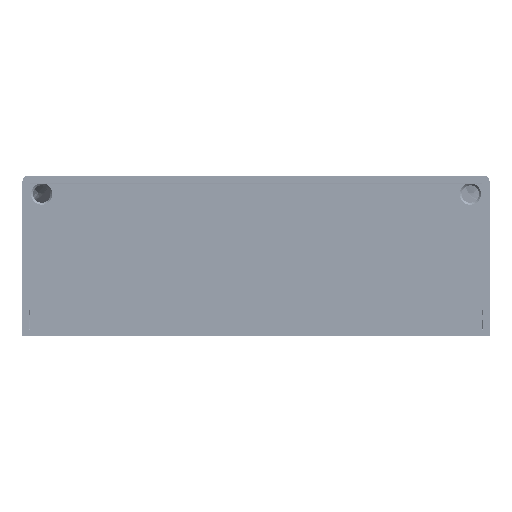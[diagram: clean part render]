
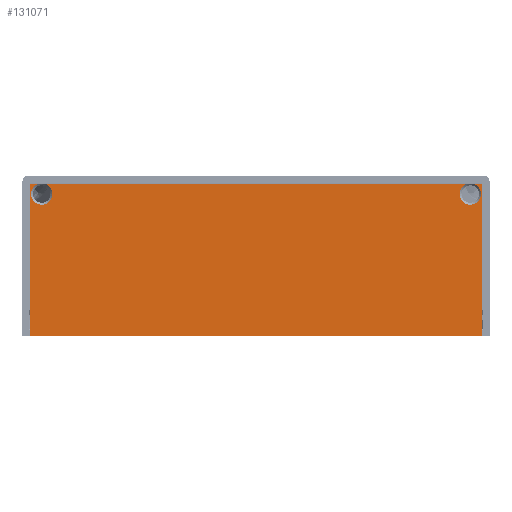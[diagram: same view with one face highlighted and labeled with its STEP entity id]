
A CAD part, left-side view. The second image highlights one B-rep face of the part: STEP entity #131071.
In plain terms, the highlighted planar face has unit normal (-1, 0, 0).
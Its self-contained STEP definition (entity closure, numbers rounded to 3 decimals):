
#925 = CARTESIAN_POINT ( 'NONE',  ( -40.15, -56.85, -40. ) ) ;
#3956 = CARTESIAN_POINT ( 'NONE',  ( -40.15, -56.85, -1.6 ) ) ;
#6101 = CARTESIAN_POINT ( 'NONE',  ( -40.15, -54., -4.17 ) ) ;
#8158 = VERTEX_POINT ( 'NONE', #72545 ) ;
#8771 = ORIENTED_EDGE ( 'NONE', *, *, #34877, .T. ) ;
#13127 = AXIS2_PLACEMENT_3D ( 'NONE', #56211, #232865, #81625 ) ;
#31464 = DIRECTION ( 'NONE',  ( 0., 1., 0. ) ) ;
#34751 = CARTESIAN_POINT ( 'NONE',  ( -40.15, 56.95, -34.5 ) ) ;
#34877 = EDGE_CURVE ( 'NONE', #255227, #118844, #248320, .T. ) ;
#39450 = DIRECTION ( 'NONE',  ( 1., 0., 0. ) ) ;
#39971 = VECTOR ( 'NONE', #303301, 1000. ) ;
#43167 = VERTEX_POINT ( 'NONE', #177712 ) ;
#46460 = CARTESIAN_POINT ( 'NONE',  ( -40.15, 56.7, -4.17 ) ) ;
#46837 = ORIENTED_EDGE ( 'NONE', *, *, #210248, .T. ) ;
#48514 = ORIENTED_EDGE ( 'NONE', *, *, #143624, .T. ) ;
#48771 = VECTOR ( 'NONE', #176226, 1000. ) ;
#56211 = CARTESIAN_POINT ( 'NONE',  ( -40.15, 54., -4.17 ) ) ;
#56597 = VERTEX_POINT ( 'NONE', #153656 ) ;
#58373 = EDGE_CURVE ( 'NONE', #56597, #209656, #107174, .T. ) ;
#72545 = CARTESIAN_POINT ( 'NONE',  ( -40.15, -56.95, -1.6 ) ) ;
#81625 = DIRECTION ( 'NONE',  ( 0., 1., 0. ) ) ;
#82367 = ORIENTED_EDGE ( 'NONE', *, *, #303267, .T. ) ;
#88823 = EDGE_CURVE ( 'NONE', #118844, #123932, #279010, .T. ) ;
#96712 = AXIS2_PLACEMENT_3D ( 'NONE', #111357, #287919, #136685 ) ;
#103754 = DIRECTION ( 'NONE',  ( 1., 0., 0. ) ) ;
#104331 = CARTESIAN_POINT ( 'NONE',  ( -40.15, 56.95, -1.6 ) ) ;
#106535 = CARTESIAN_POINT ( 'NONE',  ( -40.15, 51.3, -4.17 ) ) ;
#106750 = LINE ( 'NONE', #129312, #181763 ) ;
#107113 = EDGE_CURVE ( 'NONE', #293927, #186513, #274939, .T. ) ;
#107174 = LINE ( 'NONE', #925, #39971 ) ;
#107938 = CARTESIAN_POINT ( 'NONE',  ( -40.15, -56.95, -40. ) ) ;
#111357 = CARTESIAN_POINT ( 'NONE',  ( -40.15, 54., -4.17 ) ) ;
#118844 = VERTEX_POINT ( 'NONE', #129765 ) ;
#123932 = VERTEX_POINT ( 'NONE', #192146 ) ;
#125212 = VECTOR ( 'NONE', #191727, 1000. ) ;
#129312 = CARTESIAN_POINT ( 'NONE',  ( -40.15, -56.85, -1.6 ) ) ;
#129765 = CARTESIAN_POINT ( 'NONE',  ( -40.15, -51.3, -4.17 ) ) ;
#131071 = ADVANCED_FACE ( 'NONE', ( #198881 ), #238047, .F. ) ;
#133113 = DIRECTION ( 'NONE',  ( 1., 0., 0. ) ) ;
#134094 = EDGE_CURVE ( 'NONE', #8158, #43167, #106750, .T. ) ;
#136685 = DIRECTION ( 'NONE',  ( 0., 1., 0. ) ) ;
#137445 = CARTESIAN_POINT ( 'NONE',  ( -40.15, -56.85, -34.5 ) ) ;
#140330 = ORIENTED_EDGE ( 'NONE', *, *, #134094, .T. ) ;
#143612 = AXIS2_PLACEMENT_3D ( 'NONE', #6101, #182600, #31464 ) ;
#143624 = EDGE_CURVE ( 'NONE', #221180, #205363, #175067, .T. ) ;
#144078 = VECTOR ( 'NONE', #155097, 1000. ) ;
#145595 = CIRCLE ( 'NONE', #13127, 2.7 ) ;
#146675 = EDGE_LOOP ( 'NONE', ( #140330, #240339, #8771, #300226, #173146, #46837, #211710, #228432, #48514, #82367, #213789, #178722 ) ) ;
#153656 = CARTESIAN_POINT ( 'NONE',  ( -40.15, 56.95, -40. ) ) ;
#155097 = DIRECTION ( 'NONE',  ( 0., 1., 0. ) ) ;
#162852 = DIRECTION ( 'NONE',  ( 0., 0., -1. ) ) ;
#171428 = CARTESIAN_POINT ( 'NONE',  ( -40.15, 53.172, -1.6 ) ) ;
#173146 = ORIENTED_EDGE ( 'NONE', *, *, #248430, .T. ) ;
#175067 = LINE ( 'NONE', #327426, #48771 ) ;
#176226 = DIRECTION ( 'NONE',  ( 0., 1., 0. ) ) ;
#177712 = CARTESIAN_POINT ( 'NONE',  ( -40.15, -54.828, -1.6 ) ) ;
#178722 = ORIENTED_EDGE ( 'NONE', *, *, #202792, .F. ) ;
#181665 = AXIS2_PLACEMENT_3D ( 'NONE', #284361, #133113, #309728 ) ;
#181763 = VECTOR ( 'NONE', #228746, 1000. ) ;
#182600 = DIRECTION ( 'NONE',  ( 1., 0., 0. ) ) ;
#186513 = VERTEX_POINT ( 'NONE', #46460 ) ;
#190623 = CARTESIAN_POINT ( 'NONE',  ( -40.15, -54., -4.17 ) ) ;
#191727 = DIRECTION ( 'NONE',  ( 0., 0., -1. ) ) ;
#192146 = CARTESIAN_POINT ( 'NONE',  ( -40.15, -53.172, -1.6 ) ) ;
#198881 = FACE_OUTER_BOUND ( 'NONE', #146675, .T. ) ;
#202792 = EDGE_CURVE ( 'NONE', #8158, #209656, #275355, .T. ) ;
#205363 = VERTEX_POINT ( 'NONE', #104331 ) ;
#209656 = VERTEX_POINT ( 'NONE', #107938 ) ;
#210248 = EDGE_CURVE ( 'NONE', #250421, #293927, #145595, .T. ) ;
#211319 = DIRECTION ( 'NONE',  ( 0., 0., -1. ) ) ;
#211359 = LINE ( 'NONE', #3956, #144078 ) ;
#211710 = ORIENTED_EDGE ( 'NONE', *, *, #107113, .T. ) ;
#213789 = ORIENTED_EDGE ( 'NONE', *, *, #58373, .T. ) ;
#214731 = CARTESIAN_POINT ( 'NONE',  ( -40.15, 54.828, -1.6 ) ) ;
#216077 = DIRECTION ( 'NONE',  ( 0., 1., 0. ) ) ;
#218409 = CARTESIAN_POINT ( 'NONE',  ( -40.15, -56.7, -4.17 ) ) ;
#221180 = VERTEX_POINT ( 'NONE', #214731 ) ;
#228376 = VECTOR ( 'NONE', #211319, 1000. ) ;
#228432 = ORIENTED_EDGE ( 'NONE', *, *, #302042, .T. ) ;
#228746 = DIRECTION ( 'NONE',  ( 0., 1., 0. ) ) ;
#231317 = AXIS2_PLACEMENT_3D ( 'NONE', #190623, #39450, #216077 ) ;
#232865 = DIRECTION ( 'NONE',  ( 1., 0., 0. ) ) ;
#238047 = PLANE ( 'NONE',  #277885 ) ;
#240339 = ORIENTED_EDGE ( 'NONE', *, *, #327468, .T. ) ;
#242581 = CARTESIAN_POINT ( 'NONE',  ( -40.15, -56.95, -34.5 ) ) ;
#244170 = LINE ( 'NONE', #34751, #228376 ) ;
#248320 = CIRCLE ( 'NONE', #231317, 2.7 ) ;
#248430 = EDGE_CURVE ( 'NONE', #123932, #250421, #211359, .T. ) ;
#250421 = VERTEX_POINT ( 'NONE', #171428 ) ;
#254765 = AXIS2_PLACEMENT_3D ( 'NONE', #255019, #103754, #280339 ) ;
#255019 = CARTESIAN_POINT ( 'NONE',  ( -40.15, 54., -4.17 ) ) ;
#255227 = VERTEX_POINT ( 'NONE', #218409 ) ;
#263740 = CIRCLE ( 'NONE', #96712, 2.7 ) ;
#274939 = CIRCLE ( 'NONE', #254765, 2.7 ) ;
#275355 = LINE ( 'NONE', #242581, #125212 ) ;
#277885 = AXIS2_PLACEMENT_3D ( 'NONE', #137445, #314058, #162852 ) ;
#279010 = CIRCLE ( 'NONE', #181665, 2.7 ) ;
#280339 = DIRECTION ( 'NONE',  ( 0., 1., 0. ) ) ;
#284361 = CARTESIAN_POINT ( 'NONE',  ( -40.15, -54., -4.17 ) ) ;
#287919 = DIRECTION ( 'NONE',  ( 1., 0., 0. ) ) ;
#293927 = VERTEX_POINT ( 'NONE', #106535 ) ;
#300226 = ORIENTED_EDGE ( 'NONE', *, *, #88823, .T. ) ;
#302042 = EDGE_CURVE ( 'NONE', #186513, #221180, #263740, .T. ) ;
#303267 = EDGE_CURVE ( 'NONE', #205363, #56597, #244170, .T. ) ;
#303301 = DIRECTION ( 'NONE',  ( 0., -1., 0. ) ) ;
#309728 = DIRECTION ( 'NONE',  ( 0., 1., 0. ) ) ;
#314058 = DIRECTION ( 'NONE',  ( 1., 0., 0. ) ) ;
#317147 = CIRCLE ( 'NONE', #143612, 2.7 ) ;
#327426 = CARTESIAN_POINT ( 'NONE',  ( -40.15, -56.85, -1.6 ) ) ;
#327468 = EDGE_CURVE ( 'NONE', #43167, #255227, #317147, .T. ) ;
